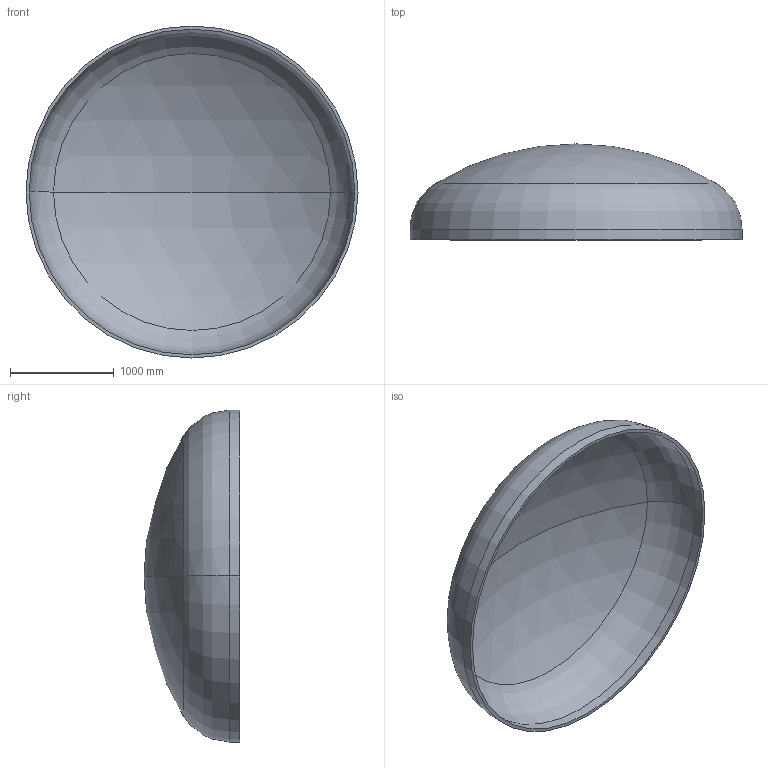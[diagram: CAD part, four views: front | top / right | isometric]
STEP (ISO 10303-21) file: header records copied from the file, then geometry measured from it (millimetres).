
FILE_DESCRIPTION (( 'STEP AP203' ), '1' );
FILE_NAME ('DIN 28013 Korbbogenform_-_Boden DIN 28013 - 3200 x 100 - I - s=31.step', '2016-07-01T18:30:50', ( '' ), ( '' ), 'SwSTEP 2.0', 'SolidWorks 2013', '' );
FILE_SCHEMA (( 'CONFIG_CONTROL_DESIGN' ));
Length unit declared in the file: millimetre
Products named in the file (1): DIN 28013 Korbbogenform_-_Boden DIN 28013 - 3200 x 100 - I - s=31
Bounding box: 3200 x 924.46 x 3200 mm (x, y, z)
Volume: 371387821.9 mm3; surface area: 24271135.4 mm2
Topology: 1 solids, 1 shells, 13 faces, 24 edges, 14 vertices
Faces by surface type: torus 4, cylinder 4, sphere 4, plane 1
Entity records: 407 total; most frequent: DIRECTION 72, CARTESIAN_POINT 52, ORIENTED_EDGE 48, AXIS2_PLACEMENT_3D 34, EDGE_CURVE 24, CIRCLE 20, VERTEX_POINT 14, EDGE_LOOP 14
